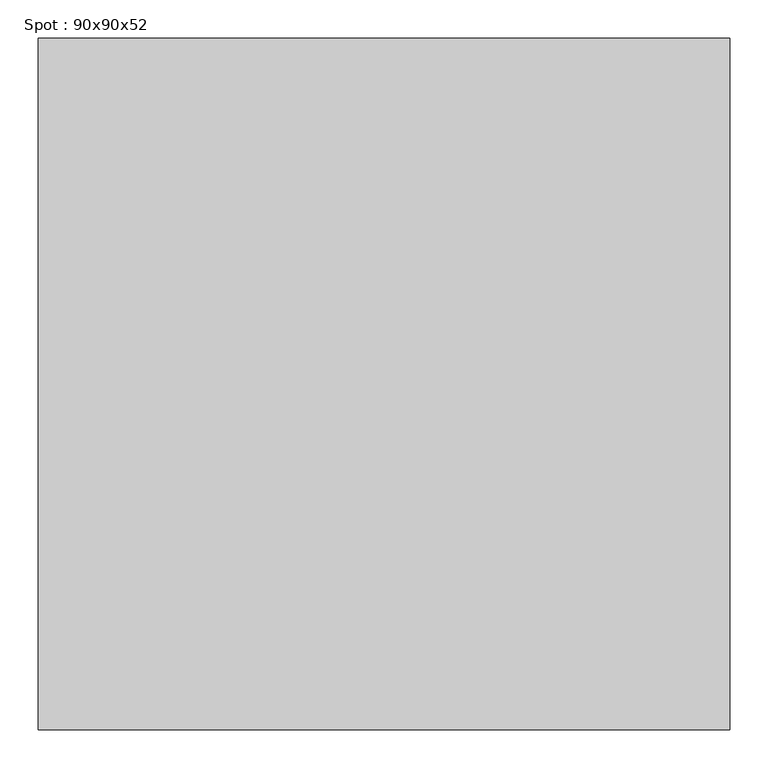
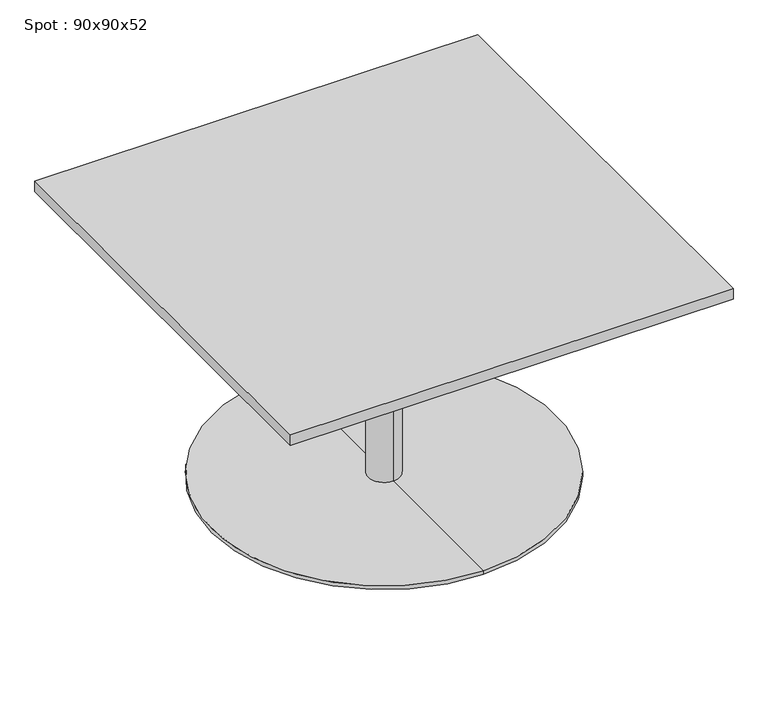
"""IFC4 building model written with IfcOpenShell, lengths in millimetres: furniture geometry, Spot : 90x90x52."""

import ifcopenshell
import ifcopenshell.guid

model = None  # the IFC model being written
_history = None  # IfcOwnerHistory: only IFC2X3 demands one
_inside = {}  # id of a spatial element -> (the spatial element, [elements in it])
_under = {}  # id of a project, library or spatial element -> (it, [spatial elements below it])
_declared = {}  # id of a project -> (the project, [libraries it declares])
_typed = {}  # id of a type object -> (the type object, [elements of that type])
_made_of = {}  # id of a material, layer set ... -> (it, [elements and type objects made of it])


def new_model(schema):
    """Start an empty IFC model of exactly this schema.

    Asked for "IFC4X3", IfcOpenShell would pick the latest addendum, in which some entities
    have other attributes; the version numbers below select the first issue.
    IFC2X3 requires an IfcOwnerHistory on every rooted entity: one is made here for all.
    """
    global model, _history
    if schema == "IFC4X3":
        model = ifcopenshell.file(schema_version=(4, 3, 0, 0))
    else:
        model = ifcopenshell.file(schema=schema)
    _inside.clear()
    _under.clear()
    _declared.clear()
    _typed.clear()
    _made_of.clear()
    _history = None
    if model.schema == "IFC2X3":
        org = make("IfcOrganization", Name="unknown")
        user = make(
            "IfcPersonAndOrganization",
            ThePerson=make("IfcPerson", FamilyName="unknown"),
            TheOrganization=org,
        )
        app = make(
            "IfcApplication",
            ApplicationDeveloper=org,
            Version="unknown",
            ApplicationFullName="unknown",
            ApplicationIdentifier="unknown",
        )
        _history = make(
            "IfcOwnerHistory",
            OwningUser=user,
            OwningApplication=app,
            ChangeAction="ADDED",
            CreationDate=0,
        )
    return model


def make(cls, **values):
    """One entity of the class cls with the attributes given. An attribute that is None is left unset."""
    return model.create_entity(
        cls, **{name: value for name, value in values.items() if value is not None}
    )


def rooted(cls, **values):
    """An entity with a GlobalId (a new one), such as an element, a storey or a relation."""
    return make(cls, GlobalId=ifcopenshell.guid.new(), OwnerHistory=_history, **values)


def si_unit(unit_type, name, prefix=None):
    """IfcSIUnit, for example si_unit("LENGTHUNIT", "METRE", prefix="MILLI")."""
    return make("IfcSIUnit", UnitType=unit_type, Prefix=prefix, Name=name)


def assignment(units):
    """IfcUnitAssignment: the units of a project."""
    return None if units is None else make("IfcUnitAssignment", Units=units)


def point(xyz):
    """IfcCartesianPoint."""
    return None if xyz is None else make("IfcCartesianPoint", Coordinates=xyz)


def direction(xyz):
    """IfcDirection."""
    return None if xyz is None else make("IfcDirection", DirectionRatios=xyz)


def frame(location, z_axis=None, x_axis=None):
    """IfcAxis2Placement3D, a coordinate frame: its origin and axes. An axis left out is left unset."""
    return make(
        "IfcAxis2Placement3D",
        Location=point(location),
        Axis=direction(z_axis),
        RefDirection=direction(x_axis),
    )


def origin():
    """The frame at (0, 0, 0) with its axes left unset."""
    return frame((0.0, 0.0, 0.0))


def place(relative_to, where):
    """IfcLocalPlacement: puts the frame where relative to a parent placement (None: the world)."""
    return make(
        "IfcLocalPlacement", PlacementRelTo=relative_to, RelativePlacement=where
    )


def context(
    kind, dimensions, precision=None, world=None, true_north=None, identifier=None
):
    """IfcGeometricRepresentationContext, for example the 3D "Model" context."""
    return make(
        "IfcGeometricRepresentationContext",
        ContextIdentifier=identifier,
        ContextType=kind,
        CoordinateSpaceDimension=dimensions,
        Precision=precision,
        WorldCoordinateSystem=world,
        TrueNorth=true_north,
    )


def project(units=None, contexts=None):
    """IfcProject with its units and contexts."""
    return rooted(
        "IfcProject",
        Name="project",
        RepresentationContexts=contexts,
        UnitsInContext=assignment(units),
    )


def spatial(cls, under=None, at=None, **own):
    """A site, building, storey or space (cls), placed at a placement, below another one or the project."""
    s = rooted(cls, ObjectPlacement=at, **own)
    if under is not None:
        _under.setdefault(under.id(), (under, []))[1].append(s)
    return s


def polyline(points):
    """IfcPolyline through the points."""
    return make("IfcPolyline", Points=[point(p) for p in points])


def circle_curve(where, radius):
    """IfcCircle in the frame where."""
    return make("IfcCircle", Position=where, Radius=radius)


def outline(outer, holes=None, kind="AREA"):
    """IfcArbitraryClosedProfileDef: a profile drawn as a closed curve; with holes, ...WithVoids."""
    if holes is None:
        return make("IfcArbitraryClosedProfileDef", ProfileType=kind, OuterCurve=outer)
    return make(
        "IfcArbitraryProfileDefWithVoids",
        ProfileType=kind,
        OuterCurve=outer,
        InnerCurves=holes,
    )


def extrude(swept, where, along, depth):
    """IfcExtrudedAreaSolid: the profile swept, set in the frame where, extruded along a direction by depth."""
    return make(
        "IfcExtrudedAreaSolid",
        SweptArea=swept,
        Position=where,
        ExtrudedDirection=direction(along),
        Depth=depth,
    )


def shape(context_of_items, identifier, shape_type, items):
    """IfcShapeRepresentation: the items that make up one representation, for example the "Body"."""
    return make(
        "IfcShapeRepresentation",
        ContextOfItems=context_of_items,
        RepresentationIdentifier=identifier,
        RepresentationType=shape_type,
        Items=items,
    )


def source(mapping_origin, context_of_items, identifier, shape_type, items):
    """IfcRepresentationMap: a shape defined once, which mapped items show again and again."""
    return make(
        "IfcRepresentationMap",
        MappingOrigin=mapping_origin,
        MappedRepresentation=shape(context_of_items, identifier, shape_type, items),
    )


def transform(
    local_origin,
    x_axis=None,
    y_axis=None,
    z_axis=None,
    scale=None,
    scale2=None,
    scale3=None,
    uniform=True,
):
    """IfcCartesianTransformationOperator3D, or its non-uniform kind. x_axis, y_axis, z_axis: its Axis1, 2, 3."""
    if uniform:
        return make(
            "IfcCartesianTransformationOperator3D",
            Axis1=direction(x_axis),
            Axis2=direction(y_axis),
            LocalOrigin=point(local_origin),
            Scale=scale,
            Axis3=direction(z_axis),
        )
    return make(
        "IfcCartesianTransformationOperator3DnonUniform",
        Axis1=direction(x_axis),
        Axis2=direction(y_axis),
        LocalOrigin=point(local_origin),
        Scale=scale,
        Axis3=direction(z_axis),
        Scale2=scale2,
        Scale3=scale3,
    )


def mapped(mapping_source, mapping_target):
    """IfcMappedItem: shows the shape of a source again, moved by a transform."""
    return make(
        "IfcMappedItem", MappingSource=mapping_source, MappingTarget=mapping_target
    )


def made_of(thing, what):
    """Note that an element or type object is made of a material, layer set ...; save() writes the relation."""
    if what is not None:
        _made_of.setdefault(what.id(), (what, []))[1].append(thing)
    return thing


def element(
    cls,
    number,
    at=None,
    inside=None,
    cuts=None,
    type_object=None,
    material=None,
    context=None,
    identifier="Body",
    shape_type=None,
    held_by="IfcProductDefinitionShape",
    body=None,
    shapes=None,
    **own,
):
    """One element of the class cls, such as IfcWall. Its Tag is "e" and its number.

    at: its placement. inside: the storey or other place that contains it. cuts: it is an
    opening in that element (IfcRelVoidsElement). A single representation is given by context,
    identifier, shape_type and body (its items); several are given by shapes. held_by: the class
    of the entity that holds the representations. save() writes the other relations.
    """
    e = rooted(cls, Tag="e%d" % number, ObjectPlacement=at, **own)
    if body is not None:
        shapes = [shape(context, identifier, shape_type, body)]
    if shapes is not None:
        e.Representation = make(held_by, Representations=shapes)
    if inside is not None:
        _inside.setdefault(inside.id(), (inside, []))[1].append(e)
    if cuts is not None:
        rooted(
            "IfcRelVoidsElement", RelatingBuildingElement=cuts, RelatedOpeningElement=e
        )
    if type_object is not None:
        _typed.setdefault(type_object.id(), (type_object, []))[1].append(e)
    return made_of(e, material)


def aggregate(whole, parts):
    """IfcRelAggregates: a whole, such as a stair, and the parts it consists of."""
    return rooted("IfcRelAggregates", RelatingObject=whole, RelatedObjects=parts)


def save(model, path):
    """Write the relations noted so far, then the file.

    IfcRelAggregates (storeys below a building ...), IfcRelContainedInSpatialStructure (elements
    in a storey), IfcRelDefinesByType, IfcRelAssociatesMaterial and IfcRelDeclares: one each for
    every whole, place, type object, material and project.
    """
    for whole, parts in _under.values():
        aggregate(whole, parts)
    for where, things in _inside.values():
        rooted(
            "IfcRelContainedInSpatialStructure",
            RelatedElements=things,
            RelatingStructure=where,
        )
    for kind, things in _typed.values():
        rooted("IfcRelDefinesByType", RelatedObjects=things, RelatingType=kind)
    for what, things in _made_of.values():
        rooted("IfcRelAssociatesMaterial", RelatedObjects=things, RelatingMaterial=what)
    for by, libraries in _declared.values():
        rooted("IfcRelDeclares", RelatingContext=by, RelatedDefinitions=libraries)
    model.write(path)


def plane_surface(at):
    """IfcPlane: the flat surface through the origin of the frame at, square to its z axis."""
    return make("IfcPlane", Position=at)


def cylinder_surface(at, radius):
    """IfcCylindricalSurface: all points at the distance radius from the z axis of the frame at."""
    return make("IfcCylindricalSurface", Position=at, Radius=radius)


def revolved_surface(curve, axis_point, axis_direction):
    """IfcSurfaceOfRevolution: the curve turned about the line through axis_point along axis_direction."""
    return make(
        "IfcSurfaceOfRevolution",
        SweptCurve=make("IfcArbitraryOpenProfileDef", ProfileType="CURVE", Curve=curve),
        AxisPosition=make("IfcAxis1Placement", Location=point(axis_point), Axis=direction(axis_direction)),
    )


def advanced_brep(points, edges, surfaces, faces):
    """IfcAdvancedBrep: a solid bounded by faces that lie on surfaces and meet in shared edges.

    An edge is (start, end): straight between two places in points (the first is 0);
    or (start, end, curve); or (start, end, curve, False) where it runs against its curve.
    A face is (place in surfaces, loops), or (place, loops, False) where it looks against
    its surface's normal. A loop lists edges by number (the first is 1), with a minus sign
    where the edge is run from its end to its start. The first loop is the outer one.
    """
    corners = [point(p) for p in points]
    vertices = [make("IfcVertexPoint", VertexGeometry=c) for c in corners]
    made = []
    for start, end, *more in edges:
        made.append(
            make(
                "IfcEdgeCurve",
                EdgeStart=vertices[start],
                EdgeEnd=vertices[end],
                EdgeGeometry=more[0] if more else make("IfcPolyline", Points=[corners[start], corners[end]]),
                SameSense=more[1] if len(more) > 1 else True,
            )
        )
    hull = []
    for where, loops, *sense in faces:
        bounds = []
        for j, loop in enumerate(loops):
            ring = [make("IfcOrientedEdge", EdgeElement=made[abs(k) - 1], Orientation=k > 0) for k in loop]
            bounds.append(
                make(
                    "IfcFaceOuterBound" if j == 0 else "IfcFaceBound",
                    Bound=make("IfcEdgeLoop", EdgeList=ring),
                    Orientation=True,
                )
            )
        hull.append(make("IfcAdvancedFace", Bounds=bounds, FaceSurface=surfaces[where], SameSense=sense[0] if sense else True))
    return make("IfcAdvancedBrep", Outer=make("IfcClosedShell", CfsFaces=hull))


def spot_90x90x52_e2c43a36(model_context):
    return source(origin(), model_context, "Body", "SolidModel", [
        extrude(outline(polyline([(450.0, 450.0), (450.0, -450.0), (-450.0, -450.0), (-450.0, 450.0), (450.0, 450.0)])), frame((0.0, 0.0, 498.0), z_axis=(0.0, 0.0, 1.0), x_axis=(1.0, 0.0, 0.0)), (0.0, 0.0, 1.0), 22.0),
        advanced_brep(
        [(0.0, 32.0, 10.0), (0.0, -32.0, 10.0), (0.0, -32.0, 467.406916), (0.0, 32.0, 467.406916), (0.0, 350.0, 10.0), (0.0, -350.0, 10.0), (0.0, 350.0, 2.0), (0.0, -350.0, 2.0), (0.0, 0.0, 2.0), (0.0, 150.0, 498.0), (0.0, -150.0, 498.0), (0.0, 0.0, 498.0), (0.0, 150.0, 486.7213673), (0.0, -150.0, 486.7213673)],
        [
            (0, 1, circle_curve(frame((0.0, 0.0, 10.0), z_axis=(0.0, 0.0, 1.0), x_axis=(0.0, -1.0, 0.0)), 32.0)),
            (1, 2),
            (2, 3, circle_curve(frame((0.0, 0.0, 467.406916), z_axis=(0.0, 0.0, -1.0), x_axis=(0.0, -1.0, 0.0)), 32.0)),
            (3, 0),
            (1, 0, circle_curve(frame((0.0, 0.0, 10.0), z_axis=(0.0, 0.0, 1.0), x_axis=(0.0, -1.0, 0.0)), 32.0)),
            (3, 2, circle_curve(frame((0.0, 0.0, 467.406916), z_axis=(0.0, 0.0, -1.0), x_axis=(0.0, -1.0, 0.0)), 32.0)),
            (4, 5, circle_curve(frame((0.0, 0.0, 10.0), z_axis=(0.0, 0.0, 1.0), x_axis=(0.0, -1.0, 0.0)), 350.0)),
            (5, 1),
            (0, 4),
            (5, 4, circle_curve(frame((0.0, 0.0, 10.0), z_axis=(0.0, 0.0, 1.0), x_axis=(0.0, -1.0, 0.0)), 350.0)),
            (6, 7, circle_curve(frame((0.0, 0.0, 2.0), z_axis=(0.0, 0.0, 1.0), x_axis=(0.0, -1.0, 0.0)), 350.0)),
            (7, 5),
            (4, 6),
            (7, 6, circle_curve(frame((0.0, 0.0, 2.0), z_axis=(0.0, 0.0, 1.0), x_axis=(0.0, -1.0, 0.0)), 350.0)),
            (8, 7),
            (6, 8),
            (9, 10, circle_curve(frame((0.0, 0.0, 498.0), z_axis=(0.0, 0.0, 1.0), x_axis=(0.0, -1.0, 0.0)), 150.0)),
            (10, 11),
            (11, 9),
            (10, 9, circle_curve(frame((0.0, 0.0, 498.0), z_axis=(0.0, 0.0, 1.0), x_axis=(0.0, -1.0, 0.0)), 150.0)),
            (12, 13, circle_curve(frame((0.0, 0.0, 486.7213673), z_axis=(0.0, 0.0, 1.0), x_axis=(0.0, -1.0, 0.0)), 150.0)),
            (13, 10),
            (9, 12),
            (13, 12, circle_curve(frame((0.0, 0.0, 486.7213673), z_axis=(0.0, 0.0, 1.0), x_axis=(0.0, -1.0, 0.0)), 150.0)),
            (2, 13),
            (12, 3),
        ],
        [
            cylinder_surface(frame((0.0, 0.0, 860.0), z_axis=(0.0, 0.0, -1.0), x_axis=(0.0, -1.0, 0.0)), 32.0),
            plane_surface(frame((0.0, 0.0, 10.0), z_axis=(0.0, 0.0, 1.0), x_axis=(0.0, -1.0, 0.0))),
            cylinder_surface(frame((0.0, 0.0, 860.0), z_axis=(0.0, 0.0, -1.0), x_axis=(0.0, -1.0, 0.0)), 350.0),
            plane_surface(frame((0.0, 0.0, 2.0), z_axis=(0.0, 0.0, -1.0), x_axis=(0.0, -1.0, 0.0))),
            plane_surface(frame((0.0, 0.0, 498.0), z_axis=(0.0, 0.0, 1.0), x_axis=(0.0, -1.0, 0.0))),
            cylinder_surface(frame((0.0, 0.0, 860.0), z_axis=(0.0, 0.0, -1.0), x_axis=(0.0, -1.0, 0.0)), 150.0),
            revolved_surface(polyline([(0.0, -150.0, 486.7213673), (0.0, -32.0, 467.406916)]), (0.0, 0.0, 860.0), (0.0, 0.0, -1.0)),
        ],
        [
            (0, [[1, 2, 3, 4]]),
            (0, [[5, -4, 6, -2]]),
            (1, [[7, 8, -1, 9]]),
            (1, [[10, -9, -5, -8]]),
            (2, [[11, 12, -7, 13]]),
            (2, [[14, -13, -10, -12]]),
            (3, [[15, -11, 16]]),
            (3, [[-16, -14, -15]]),
            (4, [[17, 18, 19]]),
            (4, [[20, -19, -18]]),
            (5, [[21, 22, -17, 23]]),
            (5, [[24, -23, -20, -22]]),
            (6, [[-3, 25, -21, 26]]),
            (6, [[-6, -26, -24, -25]]),
        ],
    ),
    ])


if __name__ == "__main__":
    model = new_model("IFC4")
    model_context = context("Model", 3, world=origin())
    ifc_project = project(units=[si_unit("LENGTHUNIT", "METRE", prefix="MILLI")], contexts=[model_context])
    site = spatial("IfcSite", under=ifc_project)
    building = spatial("IfcBuilding", under=site)
    placement = place(None, origin())
    spot_90x90x52_shape = spot_90x90x52_e2c43a36(model_context)
    element("IfcFurniture", 1, ObjectType="Spot : 90x90x52", at=placement, inside=building, context=model_context, shape_type="MappedRepresentation", body=[
        mapped(spot_90x90x52_shape, transform((0.0, 0.0, 0.0), x_axis=(1.0, 0.0, 0.0), y_axis=(0.0, 1.0, 0.0), z_axis=(0.0, 0.0, 1.0))),
    ])
    save(model, "model.ifc")
